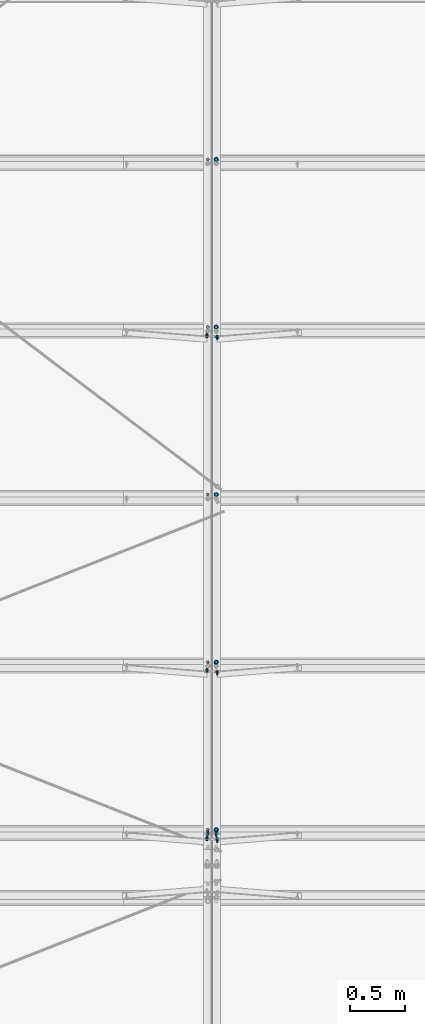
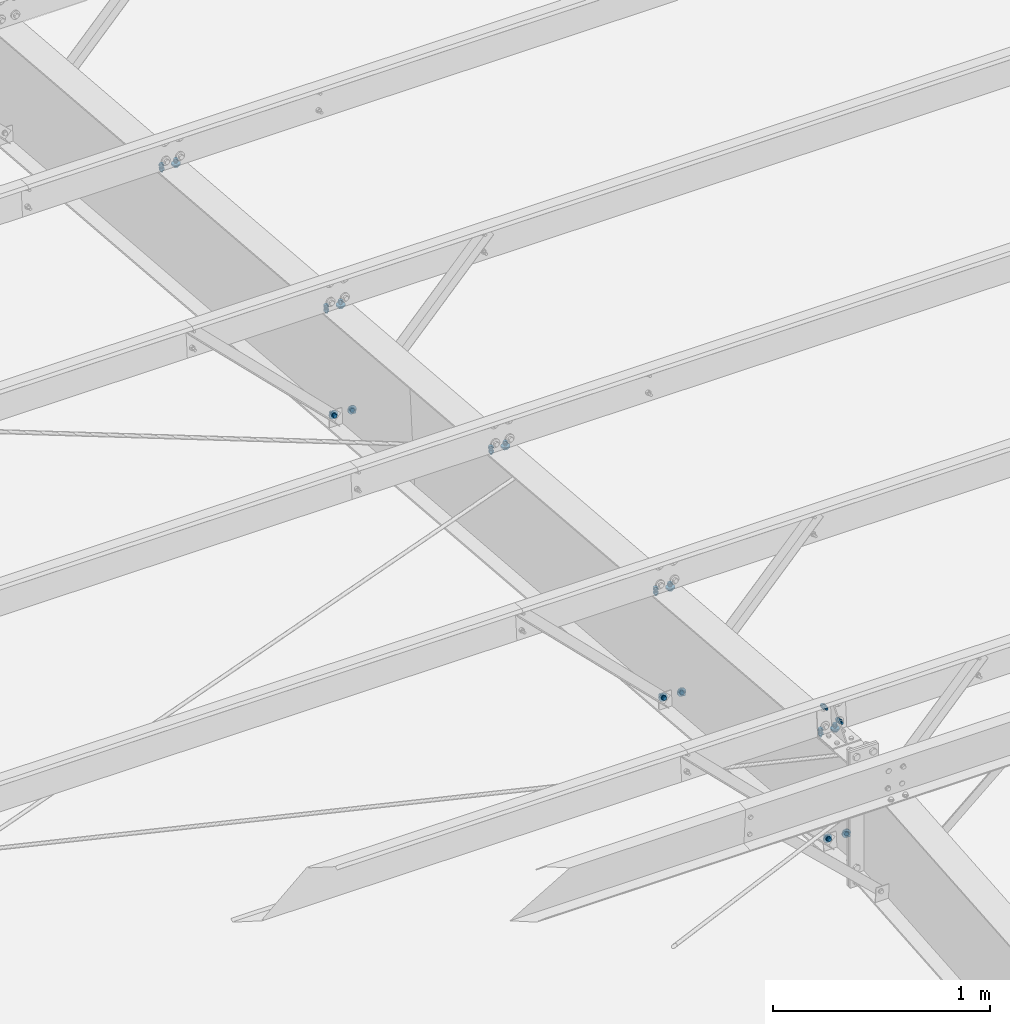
# One storey, part 147 of 185: 24 mechanical fasteners, 13 elements without a shape of their own.
"""IFC2X3 building model written with IfcOpenShell, lengths in millimetres."""

from ifc_helpers import new_model, si_unit, frame, origin_with_axes, origin_2d_with_axis, place, context, subcontext, project, spatial, polyline, circle, outline, extrude, source, transform, mapped, material, type_object, element, aggregate, save


model = new_model("IFC2X3")

# Units and contexts
model_context = context("Model", 3, precision=1e-05, world=origin_with_axes())
body_context = subcontext(model_context, "Body", "Model", "MODEL_VIEW")
ifc_project = project(units=[si_unit("LENGTHUNIT", "METRE", prefix="MILLI"), si_unit("AREAUNIT", "SQUARE_METRE"), si_unit("VOLUMEUNIT", "CUBIC_METRE"), si_unit("MASSUNIT", "GRAM", prefix="KILO"), si_unit("TIMEUNIT", "SECOND"), si_unit("PLANEANGLEUNIT", "RADIAN"), si_unit("SOLIDANGLEUNIT", "STERADIAN"), si_unit("THERMODYNAMICTEMPERATUREUNIT", "DEGREE_CELSIUS"), si_unit("LUMINOUSINTENSITYUNIT", "LUMEN")], contexts=[model_context])

# Site, building, storey
site_placement = place(None, origin_with_axes())
site = spatial("IfcSite", under=ifc_project, at=site_placement, Name="Undefined", CompositionType="ELEMENT")
building_placement = place(site_placement, origin_with_axes())
building = spatial("IfcBuilding", under=site, at=building_placement, Name="Undefined", CompositionType="ELEMENT")
storey_placement = place(building_placement, origin_with_axes())
storey = spatial("IfcBuildingStorey", under=building, at=storey_placement, Name="Undefined", CompositionType="ELEMENT", Elevation=0.0)

# Assembly, mechanical fastener
assembly_1_placement = place(storey_placement, origin_with_axes())
assembly_1 = element("IfcElementAssembly", 1, at=assembly_1_placement, inside=storey, Name="Steel Assembly", AssemblyPlace="NOTDEFINED", PredefinedType="RIGID_FRAME")
ifc_material_1 = material(Name="Undefined")
discrete_accessory_type = type_object("IfcDiscreteAccessoryType", Name="Bolt assembly")
shared_shape_1 = source(origin_with_axes(), body_context, "Body", "SweptSolid", [
    extrude(circle(Radius=7.14374971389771, at=origin_2d_with_axis()), frame((0.0, -1.59000001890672, 0.0), z_axis=(0.0, 1.0, 0.0), x_axis=(1.0, 0.0, 0.0)), (0.0, 0.0, 1.0), 1.7),
    extrude(outline(polyline([(10.9985221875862, 0.0), (5.4992610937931, 9.52499961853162), (-5.4992610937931, 9.52499961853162), (-10.9985221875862, 0.0), (-5.4992610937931, -9.52499961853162), (5.4992610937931, -9.52499961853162), (10.9985221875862, 0.0)])), frame((0.0, -15.0837496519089, 0.0), z_axis=(0.0, 1.0, 0.0), x_axis=(1.0, 0.0, 0.0)), (0.0, 0.0, 1.0), 9.5),
    extrude(circle(Radius=6.34999990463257, at=origin_2d_with_axis()), frame((0.0, -5.5587500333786, 0.0), z_axis=(0.0, 1.0, 0.0), x_axis=(1.0, 0.0, 0.0)), (0.0, 0.0, 1.0), 38.1),
    extrude(circle(Radius=13.4937496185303, at=origin_2d_with_axis()), frame((0.0, -5.5587500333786, 0.0), z_axis=(0.0, 1.0, 0.0), x_axis=(1.0, 0.0, 0.0)), (0.0, 0.0, 1.0), 4.0),
    extrude(circle(Radius=22.2250003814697, at=origin_2d_with_axis()), frame((0.0, 0.0, 0.0), z_axis=(0.0, 1.0, 0.0), x_axis=(1.0, 0.0, 0.0)), (0.0, 0.0, 1.0), 7.9),
    extrude(outline(polyline([(12.8316099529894, 0.0), (6.4158049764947, 11.1125001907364), (-6.4158049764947, 11.1125001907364), (-12.8316099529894, 0.0), (-6.4158049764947, -11.1125001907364), (6.4158049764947, -11.1125001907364), (12.8316099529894, 0.0)])), frame((0.0, 7.93750000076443, 0.0), z_axis=(0.0, 1.0, 0.0), x_axis=(1.0, 0.0, 0.0)), (0.0, 0.0, 1.0), 12.3),
])
mechanical_fastener_1_placement = place(assembly_1_placement, frame((14812.1255043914, 16242.6547918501, 6647.08460525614), z_axis=(-0.697745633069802, -0.0594892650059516, -0.713871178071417), x_axis=(-0.716345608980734, 0.0579446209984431, 0.6953354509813)))
mechanical_fastener_1 = element("IfcMechanicalFastener", 2, at=mechanical_fastener_1_placement, type_object=discrete_accessory_type, material=ifc_material_1, Name="Bolt assembly", NominalDiameter=12.6999998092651, NominalLength=38.0999984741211, context=body_context, shape_type="MappedRepresentation", body=[
    mapped(shared_shape_1, transform((0.0, 0.0, 0.0))),
])
aggregate(assembly_1, [mechanical_fastener_1])

assembly_2_placement = place(storey_placement, origin_with_axes())
assembly_2 = element("IfcElementAssembly", 3, at=assembly_2_placement, inside=storey, Name="Steel Assembly", AssemblyPlace="NOTDEFINED", PredefinedType="RIGID_FRAME")
mechanical_fastener_2_placement = place(assembly_2_placement, frame((14812.1255043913, 17761.3905274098, 6520.52329394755), z_axis=(-0.697745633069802, -0.0594892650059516, -0.713871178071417), x_axis=(-0.716345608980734, 0.0579446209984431, 0.6953354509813)))
mechanical_fastener_2 = element("IfcMechanicalFastener", 4, at=mechanical_fastener_2_placement, type_object=discrete_accessory_type, material=ifc_material_1, Name="Bolt assembly", NominalDiameter=12.6999998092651, NominalLength=38.0999984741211, context=body_context, shape_type="MappedRepresentation", body=[
    mapped(shared_shape_1, transform((0.0, 0.0, 0.0))),
])
aggregate(assembly_2, [mechanical_fastener_2])

assembly_3_placement = place(storey_placement, origin_with_axes())
assembly_3 = element("IfcElementAssembly", 5, at=assembly_3_placement, inside=storey, Name="Steel Assembly", AssemblyPlace="NOTDEFINED", PredefinedType="RIGID_FRAME")
mechanical_fastener_3_placement = place(assembly_3_placement, frame((14812.125504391, 20798.8619985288, 6267.4006713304), z_axis=(-0.697745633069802, -0.0594892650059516, -0.713871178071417), x_axis=(-0.716345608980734, 0.0579446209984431, 0.6953354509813)))
mechanical_fastener_3 = element("IfcMechanicalFastener", 6, at=mechanical_fastener_3_placement, type_object=discrete_accessory_type, material=ifc_material_1, Name="Bolt assembly", NominalDiameter=12.6999998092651, NominalLength=38.0999984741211, context=body_context, shape_type="MappedRepresentation", body=[
    mapped(shared_shape_1, transform((0.0, 0.0, 0.0))),
])
aggregate(assembly_3, [mechanical_fastener_3])

assembly_4_placement = place(storey_placement, origin_with_axes())
assembly_4 = element("IfcElementAssembly", 7, at=assembly_4_placement, inside=storey, Name="Steel Assembly", AssemblyPlace="NOTDEFINED", PredefinedType="RIGID_FRAME")
shared_shape_2 = source(origin_with_axes(), body_context, "Body", "SweptSolid", [
    extrude(circle(Radius=7.14374971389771, at=origin_2d_with_axis()), frame((0.0, 0.0, 0.0), z_axis=(0.0, 1.0, 0.0), x_axis=(1.0, 0.0, 0.0)), (0.0, 0.0, 1.0), 1.7),
    extrude(outline(polyline([(10.9985221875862, 0.0), (5.4992610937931, 9.52499961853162), (-5.4992610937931, 9.52499961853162), (-10.9985221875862, 0.0), (-5.4992610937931, -9.52499961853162), (5.4992610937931, -9.52499961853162), (10.9985221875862, 0.0)])), frame((0.0, -13.4937496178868, 0.0), z_axis=(0.0, 1.0, 0.0), x_axis=(1.0, 0.0, 0.0)), (0.0, 0.0, 1.0), 9.5),
    extrude(circle(Radius=6.34999990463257, at=origin_2d_with_axis()), frame((0.0, -3.96874999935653, 0.0), z_axis=(0.0, 1.0, 0.0), x_axis=(1.0, 0.0, 0.0)), (0.0, 0.0, 1.0), 38.1),
    extrude(circle(Radius=13.4937496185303, at=origin_2d_with_axis()), frame((0.0, -3.96874999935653, 0.0), z_axis=(0.0, 1.0, 0.0), x_axis=(1.0, 0.0, 0.0)), (0.0, 0.0, 1.0), 4.0),
    extrude(circle(Radius=22.2250003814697, at=origin_2d_with_axis()), frame((0.0, 1.5900000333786, 0.0), z_axis=(0.0, 1.0, 0.0), x_axis=(1.0, 0.0, 0.0)), (0.0, 0.0, 1.0), 7.9),
    extrude(outline(polyline([(12.8316099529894, 0.0), (6.4158049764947, 11.1125001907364), (-6.4158049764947, 11.1125001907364), (-12.8316099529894, 0.0), (-6.4158049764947, -11.1125001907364), (6.4158049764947, -11.1125001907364), (12.8316099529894, 0.0)])), frame((0.0, 9.5275000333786, 0.0), z_axis=(0.0, 1.0, 0.0), x_axis=(1.0, 0.0, 0.0)), (0.0, 0.0, 1.0), 12.3),
])
mechanical_fastener_4_placement = place(assembly_4_placement, frame((14905.874495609, 20798.8619985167, 6267.40067132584), z_axis=(0.697745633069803, -0.0594892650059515, -0.713871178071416), x_axis=(0.716345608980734, 0.0579446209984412, 0.6953354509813)))
mechanical_fastener_4 = element("IfcMechanicalFastener", 8, at=mechanical_fastener_4_placement, type_object=discrete_accessory_type, material=ifc_material_1, Name="Bolt assembly", NominalDiameter=12.6999998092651, NominalLength=38.0999984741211, context=body_context, shape_type="MappedRepresentation", body=[
    mapped(shared_shape_2, transform((0.0, 0.0, 0.0))),
])
aggregate(assembly_4, [mechanical_fastener_4])

assembly_5_placement = place(storey_placement, origin_with_axes())
assembly_5 = element("IfcElementAssembly", 9, at=assembly_5_placement, inside=storey, Name="Steel Assembly", AssemblyPlace="NOTDEFINED", PredefinedType="RIGID_FRAME")
mechanical_fastener_5_placement = place(assembly_5_placement, frame((14905.8744956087, 17761.3905273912, 6520.52329394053), z_axis=(0.697745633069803, -0.0594892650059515, -0.713871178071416), x_axis=(0.716345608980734, 0.0579446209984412, 0.6953354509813)))
mechanical_fastener_5 = element("IfcMechanicalFastener", 10, at=mechanical_fastener_5_placement, type_object=discrete_accessory_type, material=ifc_material_1, Name="Bolt assembly", NominalDiameter=12.6999998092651, NominalLength=38.0999984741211, context=body_context, shape_type="MappedRepresentation", body=[
    mapped(shared_shape_2, transform((0.0, 0.0, 0.0))),
])
aggregate(assembly_5, [mechanical_fastener_5])

assembly_6_placement = place(storey_placement, origin_with_axes())
assembly_6 = element("IfcElementAssembly", 11, at=assembly_6_placement, inside=storey, Name="Steel Assembly", AssemblyPlace="NOTDEFINED", PredefinedType="RIGID_FRAME")
mechanical_fastener_6_placement = place(assembly_6_placement, frame((14905.8744956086, 16242.6547918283, 6647.08460524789), z_axis=(0.697745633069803, -0.0594892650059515, -0.713871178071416), x_axis=(0.716345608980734, 0.0579446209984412, 0.6953354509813)))
mechanical_fastener_6 = element("IfcMechanicalFastener", 12, at=mechanical_fastener_6_placement, type_object=discrete_accessory_type, material=ifc_material_1, Name="Bolt assembly", NominalDiameter=12.6999998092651, NominalLength=38.0999984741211, context=body_context, shape_type="MappedRepresentation", body=[
    mapped(shared_shape_2, transform((0.0, 0.0, 0.0))),
])
aggregate(assembly_6, [mechanical_fastener_6])

# Assembly, mechanical fasteners
assembly_7_placement = place(storey_placement, origin_with_axes())
assembly_7 = element("IfcElementAssembly", 13, at=assembly_7_placement, inside=storey, Name="Steel Assembly", AssemblyPlace="NOTDEFINED", PredefinedType="RIGID_FRAME")
ifc_material_2 = material(Name="7990")
shared_shape_3 = source(origin_with_axes(), body_context, "Body", "SweptSolid", [
    extrude(circle(Radius=7.14374971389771, at=origin_2d_with_axis()), frame((0.0, -3.41600000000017, 0.0), z_axis=(0.0, 1.0, 0.0), x_axis=(1.0, 0.0, 0.0)), (0.0, 0.0, 1.0), 3.5),
    extrude(circle(Radius=11.4299998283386, at=origin_2d_with_axis()), frame((0.0, 0.0, 0.0), z_axis=(0.0, 1.0, 0.0), x_axis=(1.0, 0.0, 0.0)), (0.0, 0.0, 1.0), 4.2),
    extrude(outline(polyline([(12.171698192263, 0.0), (6.08584909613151, 10.5409998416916), (-6.08584909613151, 10.5409998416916), (-12.171698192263, 0.0), (-6.08584909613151, -10.5409998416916), (6.08584909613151, -10.5409998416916), (12.171698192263, 0.0)])), frame((0.0, 4.1909999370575, 0.0), z_axis=(0.0, 1.0, 0.0), x_axis=(1.0, 0.0, 0.0)), (0.0, 0.0, 1.0), 8.4),
])
mechanical_fastener_7_placement = place(assembly_7_placement, frame((14905.15815, 16242.5968472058, 6646.38926977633), z_axis=(-0.921635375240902, -0.0322263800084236, -0.386716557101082), x_axis=(0.388056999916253, -0.0765376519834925, -0.918451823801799)))
mechanical_fastener_7 = element("IfcMechanicalFastener", 14, at=mechanical_fastener_7_placement, type_object=discrete_accessory_type, material=ifc_material_2, Name="Bolt assembly", NominalDiameter=12.6999998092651, NominalLength=38.0999984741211, context=body_context, shape_type="MappedRepresentation", body=[
    mapped(shared_shape_3, transform((0.0, 0.0, 0.0))),
])
mechanical_fastener_8_placement = place(assembly_7_placement, frame((14905.15815, 17761.3325827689, 6519.82795847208), z_axis=(-0.921635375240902, -0.0322263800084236, -0.386716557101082), x_axis=(0.388056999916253, -0.0765376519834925, -0.918451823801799)))
mechanical_fastener_8 = element("IfcMechanicalFastener", 15, at=mechanical_fastener_8_placement, type_object=discrete_accessory_type, material=ifc_material_2, Name="Bolt assembly", NominalDiameter=12.6999998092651, NominalLength=38.0999984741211, context=body_context, shape_type="MappedRepresentation", body=[
    mapped(shared_shape_3, transform((0.0, 0.0, 0.0))),
])
mechanical_fastener_9_placement = place(assembly_7_placement, frame((14905.15815, 20798.8040538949, 6266.70533586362), z_axis=(-0.921635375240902, -0.0322263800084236, -0.386716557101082), x_axis=(0.388056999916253, -0.0765376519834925, -0.918451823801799)))
mechanical_fastener_9 = element("IfcMechanicalFastener", 16, at=mechanical_fastener_9_placement, type_object=discrete_accessory_type, material=ifc_material_2, Name="Bolt assembly", NominalDiameter=12.6999998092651, NominalLength=38.0999984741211, context=body_context, shape_type="MappedRepresentation", body=[
    mapped(shared_shape_3, transform((0.0, 0.0, 0.0))),
])
shared_shape_4 = source(origin_with_axes(), body_context, "Body", "SweptSolid", [
    extrude(circle(Radius=7.14374971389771, at=origin_2d_with_axis()), frame((0.0, 0.0, 0.0), z_axis=(0.0, 1.0, 0.0), x_axis=(1.0, 0.0, 0.0)), (0.0, 0.0, 1.0), 3.5),
    extrude(circle(Radius=11.4299998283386, at=origin_2d_with_axis()), frame((0.0, 3.41600000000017, 0.0), z_axis=(0.0, 1.0, 0.0), x_axis=(1.0, 0.0, 0.0)), (0.0, 0.0, 1.0), 4.2),
    extrude(outline(polyline([(12.171698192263, 0.0), (6.08584909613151, 10.5409998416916), (-6.08584909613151, 10.5409998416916), (-12.171698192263, 0.0), (-6.08584909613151, -10.5409998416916), (6.08584909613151, -10.5409998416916), (12.171698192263, 0.0)])), frame((0.0, 7.60699993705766, 0.0), z_axis=(0.0, 1.0, 0.0), x_axis=(1.0, 0.0, 0.0)), (0.0, 0.0, 1.0), 8.4),
])
mechanical_fastener_10_placement = place(assembly_7_placement, frame((14812.84185, 16242.5968472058, 6646.38926977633), z_axis=(0.921635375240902, -0.0322263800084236, -0.386716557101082), x_axis=(-0.388056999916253, -0.0765376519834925, -0.918451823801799)))
mechanical_fastener_10 = element("IfcMechanicalFastener", 17, at=mechanical_fastener_10_placement, type_object=discrete_accessory_type, material=ifc_material_2, Name="Bolt assembly", NominalDiameter=12.6999998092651, NominalLength=38.0999984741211, context=body_context, shape_type="MappedRepresentation", body=[
    mapped(shared_shape_4, transform((0.0, 0.0, 0.0))),
])
mechanical_fastener_11_placement = place(assembly_7_placement, frame((14812.84185, 17761.3325827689, 6519.82795847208), z_axis=(0.921635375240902, -0.0322263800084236, -0.386716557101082), x_axis=(-0.388056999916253, -0.0765376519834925, -0.918451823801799)))
mechanical_fastener_11 = element("IfcMechanicalFastener", 18, at=mechanical_fastener_11_placement, type_object=discrete_accessory_type, material=ifc_material_2, Name="Bolt assembly", NominalDiameter=12.6999998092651, NominalLength=38.0999984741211, context=body_context, shape_type="MappedRepresentation", body=[
    mapped(shared_shape_4, transform((0.0, 0.0, 0.0))),
])
mechanical_fastener_12_placement = place(assembly_7_placement, frame((14812.84185, 20798.8040538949, 6266.70533586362), z_axis=(0.921635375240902, -0.0322263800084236, -0.386716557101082), x_axis=(-0.388056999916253, -0.0765376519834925, -0.918451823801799)))
mechanical_fastener_12 = element("IfcMechanicalFastener", 19, at=mechanical_fastener_12_placement, type_object=discrete_accessory_type, material=ifc_material_2, Name="Bolt assembly", NominalDiameter=12.6999998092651, NominalLength=38.0999984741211, context=body_context, shape_type="MappedRepresentation", body=[
    mapped(shared_shape_4, transform((0.0, 0.0, 0.0))),
])
aggregate(assembly_7, [mechanical_fastener_10, mechanical_fastener_7, mechanical_fastener_11, mechanical_fastener_8, mechanical_fastener_12, mechanical_fastener_9])

assembly_8_placement = place(storey_placement, origin_with_axes())
assembly_8 = element("IfcElementAssembly", 20, at=assembly_8_placement, inside=storey, Name="Steel Assembly", AssemblyPlace="NOTDEFINED", PredefinedType="RIGID_FRAME")
shared_shape_5 = source(origin_with_axes(), body_context, "Body", "SweptSolid", [
    extrude(circle(Radius=7.14374971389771, at=origin_2d_with_axis()), frame((0.0, 0.0, 0.0), z_axis=(0.0, 1.0, 0.0), x_axis=(1.0, 0.0, 0.0)), (0.0, 0.0, 1.0), 6.4),
    extrude(outline(polyline([(10.9985221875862, 0.0), (5.4992610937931, 9.52499961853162), (-5.4992610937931, 9.52499961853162), (-10.9985221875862, 0.0), (-5.4992610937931, -9.52499961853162), (5.4992610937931, -9.52499961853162), (10.9985221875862, 0.0)])), frame((0.0, -13.4937496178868, 0.0), z_axis=(0.0, 1.0, 0.0), x_axis=(1.0, 0.0, 0.0)), (0.0, 0.0, 1.0), 9.5),
    extrude(circle(Radius=6.34999990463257, at=origin_2d_with_axis()), frame((0.0, -3.96874999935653, 0.0), z_axis=(0.0, 1.0, 0.0), x_axis=(1.0, 0.0, 0.0)), (0.0, 0.0, 1.0), 38.1),
    extrude(circle(Radius=13.4937496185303, at=origin_2d_with_axis()), frame((0.0, -3.96874999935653, 0.0), z_axis=(0.0, 1.0, 0.0), x_axis=(1.0, 0.0, 0.0)), (0.0, 0.0, 1.0), 4.0),
    extrude(outline(polyline([(12.8316099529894, 0.0), (6.4158049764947, 11.1125001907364), (-6.4158049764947, 11.1125001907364), (-12.8316099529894, 0.0), (-6.4158049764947, -11.1125001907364), (6.4158049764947, -11.1125001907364), (12.8316099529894, 0.0)])), frame((0.0, 6.35000000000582, 0.0), z_axis=(0.0, 1.0, 0.0), x_axis=(1.0, 0.0, 0.0)), (0.0, 0.0, 1.0), 12.3),
])
mechanical_fastener_13_placement = place(assembly_8_placement, frame((14897.1, 16293.0905915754, 7252.31420222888), z_axis=(-1.0, 0.0, 0.0), x_axis=(0.0, -0.0830454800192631, -0.996545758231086)))
mechanical_fastener_13 = element("IfcMechanicalFastener", 21, at=mechanical_fastener_13_placement, type_object=discrete_accessory_type, material=ifc_material_1, Name="Bolt assembly", NominalDiameter=12.6999998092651, NominalLength=38.0999984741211, context=body_context, shape_type="MappedRepresentation", body=[
    mapped(shared_shape_5, transform((0.0, 0.0, 0.0))),
])
mechanical_fastener_14_placement = place(assembly_8_placement, frame((14820.9, 16301.5280123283, 7353.56325126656), z_axis=(-1.0, 0.0, 0.0), x_axis=(0.0, -0.0830454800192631, -0.996545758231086)))
mechanical_fastener_14 = element("IfcMechanicalFastener", 22, at=mechanical_fastener_14_placement, type_object=discrete_accessory_type, material=ifc_material_1, Name="Bolt assembly", NominalDiameter=12.6999998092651, NominalLength=38.0999984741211, context=body_context, shape_type="MappedRepresentation", body=[
    mapped(shared_shape_5, transform((0.0, 0.0, 0.0))),
])
aggregate(assembly_8, [mechanical_fastener_13, mechanical_fastener_14])

# Assembly, mechanical fastener
assembly_9_placement = place(storey_placement, origin_with_axes())
assembly_9 = element("IfcElementAssembly", 23, at=assembly_9_placement, inside=storey, Name="Steel Assembly", AssemblyPlace="NOTDEFINED", PredefinedType="RIGID_FRAME")
shared_shape_6 = source(origin_with_axes(), body_context, "Body", "SweptSolid", [
    extrude(circle(Radius=7.14374971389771, at=origin_2d_with_axis()), frame((0.0, -0.0238014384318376, 0.0), z_axis=(0.0, 1.0, 0.0), x_axis=(1.0, 0.0, 0.0)), (0.0, 0.0, 1.0), 8.0),
    extrude(circle(Radius=7.14374971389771, at=origin_2d_with_axis()), frame((0.0, -3.08000006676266, 0.0), z_axis=(0.0, 1.0, 0.0), x_axis=(1.0, 0.0, 0.0)), (0.0, 0.0, 1.0), 3.2),
    extrude(circle(Radius=7.14374971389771, at=origin_2d_with_axis()), frame((0.0, -3.08000006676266, 0.0), z_axis=(0.0, 1.0, 0.0), x_axis=(1.0, 0.0, 0.0)), (0.0, 0.0, 1.0), 3.2),
    extrude(outline(polyline([(10.9985221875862, 0.0), (5.4992610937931, 9.52499961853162), (-5.4992610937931, 9.52499961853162), (-10.9985221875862, 0.0), (-5.4992610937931, -9.52499961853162), (5.4992610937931, -9.52499961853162), (10.9985221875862, 0.0)])), frame((0.0, -16.6737496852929, 0.0), z_axis=(0.0, 1.0, 0.0), x_axis=(1.0, 0.0, 0.0)), (0.0, 0.0, 1.0), 9.5),
    extrude(circle(Radius=6.34999990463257, at=origin_2d_with_axis()), frame((0.0, -7.14875006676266, 0.0), z_axis=(0.0, 1.0, 0.0), x_axis=(1.0, 0.0, 0.0)), (0.0, 0.0, 1.0), 38.1),
    extrude(circle(Radius=13.4937496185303, at=origin_2d_with_axis()), frame((0.0, -7.14875006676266, 0.0), z_axis=(0.0, 1.0, 0.0), x_axis=(1.0, 0.0, 0.0)), (0.0, 0.0, 1.0), 4.0),
    extrude(circle(Radius=22.2250003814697, at=origin_2d_with_axis()), frame((0.0, 7.95019856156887, 0.0), z_axis=(0.0, 1.0, 0.0), x_axis=(1.0, 0.0, 0.0)), (0.0, 0.0, 1.0), 7.9),
    extrude(outline(polyline([(12.8316099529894, 0.0), (6.4158049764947, 11.1125001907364), (-6.4158049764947, 11.1125001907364), (-12.8316099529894, 0.0), (-6.4158049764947, -11.1125001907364), (6.4158049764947, -11.1125001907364), (12.8316099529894, 0.0)])), frame((0.0, 15.8876985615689, 0.0), z_axis=(0.0, 1.0, 0.0), x_axis=(1.0, 0.0, 0.0)), (0.0, 0.0, 1.0), 12.3),
])
mechanical_fastener_15_placement = place(assembly_9_placement, frame((14897.1, 22401.7832167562, 6692.28039870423), z_axis=(-1.0, 0.0, 0.0), x_axis=(0.0, 0.996545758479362, -0.0830454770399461)))
mechanical_fastener_15 = element("IfcMechanicalFastener", 24, at=mechanical_fastener_15_placement, type_object=discrete_accessory_type, material=ifc_material_1, Name="Bolt assembly", NominalDiameter=12.6999998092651, NominalLength=38.0999984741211, context=body_context, shape_type="MappedRepresentation", body=[
    mapped(shared_shape_6, transform((0.0, 0.0, 0.0))),
])

assembly_10_placement = place(storey_placement, origin_with_axes())
assembly_10 = element("IfcElementAssembly", 25, at=assembly_10_placement, inside=storey, Name="Steel Assembly", AssemblyPlace="NOTDEFINED", PredefinedType="RIGID_FRAME")
mechanical_fastener_16_placement = place(assembly_10_placement, frame((14897.1, 20883.0474812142, 6818.84171026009), z_axis=(-1.0, 0.0, 0.0), x_axis=(0.0, 0.996545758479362, -0.0830454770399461)))
mechanical_fastener_16 = element("IfcMechanicalFastener", 26, at=mechanical_fastener_16_placement, type_object=discrete_accessory_type, material=ifc_material_1, Name="Bolt assembly", NominalDiameter=12.6999998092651, NominalLength=38.0999984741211, context=body_context, shape_type="MappedRepresentation", body=[
    mapped(shared_shape_6, transform((0.0, 0.0, 0.0))),
])

assembly_11_placement = place(storey_placement, origin_with_axes())
assembly_11 = element("IfcElementAssembly", 27, at=assembly_11_placement, inside=storey, Name="Steel Assembly", AssemblyPlace="NOTDEFINED", PredefinedType="RIGID_FRAME")
mechanical_fastener_17_placement = place(assembly_11_placement, frame((14897.1, 19364.3117456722, 6945.40302181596), z_axis=(-1.0, 0.0, 0.0), x_axis=(0.0, 0.996545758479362, -0.0830454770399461)))
mechanical_fastener_17 = element("IfcMechanicalFastener", 28, at=mechanical_fastener_17_placement, type_object=discrete_accessory_type, material=ifc_material_1, Name="Bolt assembly", NominalDiameter=12.6999998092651, NominalLength=38.0999984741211, context=body_context, shape_type="MappedRepresentation", body=[
    mapped(shared_shape_6, transform((0.0, 0.0, 0.0))),
])

assembly_12_placement = place(storey_placement, origin_with_axes())
assembly_12 = element("IfcElementAssembly", 29, at=assembly_12_placement, inside=storey, Name="Steel Assembly", AssemblyPlace="NOTDEFINED", PredefinedType="RIGID_FRAME")
mechanical_fastener_18_placement = place(assembly_12_placement, frame((14897.1, 17845.5760101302, 7071.96433337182), z_axis=(-1.0, 0.0, 0.0), x_axis=(0.0, 0.996545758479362, -0.0830454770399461)))
mechanical_fastener_18 = element("IfcMechanicalFastener", 30, at=mechanical_fastener_18_placement, type_object=discrete_accessory_type, material=ifc_material_1, Name="Bolt assembly", NominalDiameter=12.6999998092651, NominalLength=38.0999984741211, context=body_context, shape_type="MappedRepresentation", body=[
    mapped(shared_shape_6, transform((0.0, 0.0, 0.0))),
])

assembly_13_placement = place(storey_placement, origin_with_axes())
assembly_13 = element("IfcElementAssembly", 31, at=assembly_13_placement, inside=storey, Name="Steel Assembly", AssemblyPlace="NOTDEFINED", PredefinedType="RIGID_FRAME")
mechanical_fastener_19_placement = place(assembly_13_placement, frame((14897.1, 16326.840274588, 7198.52564492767), z_axis=(-1.0, 0.0, 0.0), x_axis=(0.0, 0.996545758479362, -0.0830454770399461)))
mechanical_fastener_19 = element("IfcMechanicalFastener", 32, at=mechanical_fastener_19_placement, type_object=discrete_accessory_type, material=ifc_material_1, Name="Bolt assembly", NominalDiameter=12.6999998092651, NominalLength=38.0999984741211, context=body_context, shape_type="MappedRepresentation", body=[
    mapped(shared_shape_6, transform((0.0, 0.0, 0.0))),
])

# Mechanical fastener
shared_shape_7 = source(origin_with_axes(), body_context, "Body", "SweptSolid", [
    extrude(circle(Radius=7.14374971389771, at=origin_2d_with_axis()), frame((0.0, -0.0238014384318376, 0.0), z_axis=(0.0, 1.0, 0.0), x_axis=(1.0, 0.0, 0.0)), (0.0, 0.0, 1.0), 8.0),
    extrude(circle(Radius=7.14374971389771, at=origin_2d_with_axis()), frame((0.0, -3.08000006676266, 0.0), z_axis=(0.0, 1.0, 0.0), x_axis=(1.0, 0.0, 0.0)), (0.0, 0.0, 1.0), 3.2),
    extrude(circle(Radius=7.14374971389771, at=origin_2d_with_axis()), frame((0.0, -3.08000006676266, 0.0), z_axis=(0.0, 1.0, 0.0), x_axis=(1.0, 0.0, 0.0)), (0.0, 0.0, 1.0), 3.2),
    extrude(outline(polyline([(10.9985221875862, 0.0), (5.4992610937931, 9.52499961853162), (-5.4992610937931, 9.52499961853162), (-10.9985221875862, 0.0), (-5.4992610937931, -9.52499961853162), (5.4992610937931, -9.52499961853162), (10.9985221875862, 0.0)])), frame((0.0, -16.6737496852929, 0.0), z_axis=(0.0, 1.0, 0.0), x_axis=(1.0, 0.0, 0.0)), (0.0, 0.0, 1.0), 9.5),
    extrude(circle(Radius=6.34999990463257, at=origin_2d_with_axis()), frame((0.0, -7.14875006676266, 0.0), z_axis=(0.0, 1.0, 0.0), x_axis=(1.0, 0.0, 0.0)), (0.0, 0.0, 1.0), 38.1),
    extrude(circle(Radius=13.4937496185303, at=origin_2d_with_axis()), frame((0.0, -7.14875006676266, 0.0), z_axis=(0.0, 1.0, 0.0), x_axis=(1.0, 0.0, 0.0)), (0.0, 0.0, 1.0), 4.0),
    extrude(outline(polyline([(12.8316099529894, 0.0), (6.4158049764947, 11.1125001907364), (-6.4158049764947, 11.1125001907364), (-12.8316099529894, 0.0), (-6.4158049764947, -11.1125001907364), (6.4158049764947, -11.1125001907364), (12.8316099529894, 0.0)])), frame((0.0, 7.95019856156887, 0.0), z_axis=(0.0, 1.0, 0.0), x_axis=(1.0, 0.0, 0.0)), (0.0, 0.0, 1.0), 12.3),
])
mechanical_fastener_20_placement = place(assembly_9_placement, frame((14820.9, 22401.7832167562, 6692.28039870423), z_axis=(-1.0, 0.0, 0.0), x_axis=(0.0, 0.996545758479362, -0.0830454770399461)))
mechanical_fastener_20 = element("IfcMechanicalFastener", 33, at=mechanical_fastener_20_placement, type_object=discrete_accessory_type, material=ifc_material_1, Name="Bolt assembly", NominalDiameter=12.6999998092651, NominalLength=38.0999984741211, context=body_context, shape_type="MappedRepresentation", body=[
    mapped(shared_shape_7, transform((0.0, 0.0, 0.0))),
])

aggregate(assembly_9, [mechanical_fastener_15, mechanical_fastener_20])

mechanical_fastener_21_placement = place(assembly_10_placement, frame((14820.9, 20883.0474812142, 6818.84171026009), z_axis=(-1.0, 0.0, 0.0), x_axis=(0.0, 0.996545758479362, -0.0830454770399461)))
mechanical_fastener_21 = element("IfcMechanicalFastener", 34, at=mechanical_fastener_21_placement, type_object=discrete_accessory_type, material=ifc_material_1, Name="Bolt assembly", NominalDiameter=12.6999998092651, NominalLength=38.0999984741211, context=body_context, shape_type="MappedRepresentation", body=[
    mapped(shared_shape_7, transform((0.0, 0.0, 0.0))),
])

aggregate(assembly_10, [mechanical_fastener_16, mechanical_fastener_21])

mechanical_fastener_22_placement = place(assembly_11_placement, frame((14820.9, 19364.3117456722, 6945.40302181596), z_axis=(-1.0, 0.0, 0.0), x_axis=(0.0, 0.996545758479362, -0.0830454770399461)))
mechanical_fastener_22 = element("IfcMechanicalFastener", 35, at=mechanical_fastener_22_placement, type_object=discrete_accessory_type, material=ifc_material_1, Name="Bolt assembly", NominalDiameter=12.6999998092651, NominalLength=38.0999984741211, context=body_context, shape_type="MappedRepresentation", body=[
    mapped(shared_shape_7, transform((0.0, 0.0, 0.0))),
])

aggregate(assembly_11, [mechanical_fastener_17, mechanical_fastener_22])

mechanical_fastener_23_placement = place(assembly_12_placement, frame((14820.9, 17845.5760101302, 7071.96433337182), z_axis=(-1.0, 0.0, 0.0), x_axis=(0.0, 0.996545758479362, -0.0830454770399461)))
mechanical_fastener_23 = element("IfcMechanicalFastener", 36, at=mechanical_fastener_23_placement, type_object=discrete_accessory_type, material=ifc_material_1, Name="Bolt assembly", NominalDiameter=12.6999998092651, NominalLength=38.0999984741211, context=body_context, shape_type="MappedRepresentation", body=[
    mapped(shared_shape_7, transform((0.0, 0.0, 0.0))),
])

aggregate(assembly_12, [mechanical_fastener_18, mechanical_fastener_23])

mechanical_fastener_24_placement = place(assembly_13_placement, frame((14820.9, 16326.840274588, 7198.52564492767), z_axis=(-1.0, 0.0, 0.0), x_axis=(0.0, 0.996545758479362, -0.0830454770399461)))
mechanical_fastener_24 = element("IfcMechanicalFastener", 37, at=mechanical_fastener_24_placement, type_object=discrete_accessory_type, material=ifc_material_1, Name="Bolt assembly", NominalDiameter=12.6999998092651, NominalLength=38.0999984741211, context=body_context, shape_type="MappedRepresentation", body=[
    mapped(shared_shape_7, transform((0.0, 0.0, 0.0))),
])

aggregate(assembly_13, [mechanical_fastener_19, mechanical_fastener_24])

save(model, "model.ifc")
